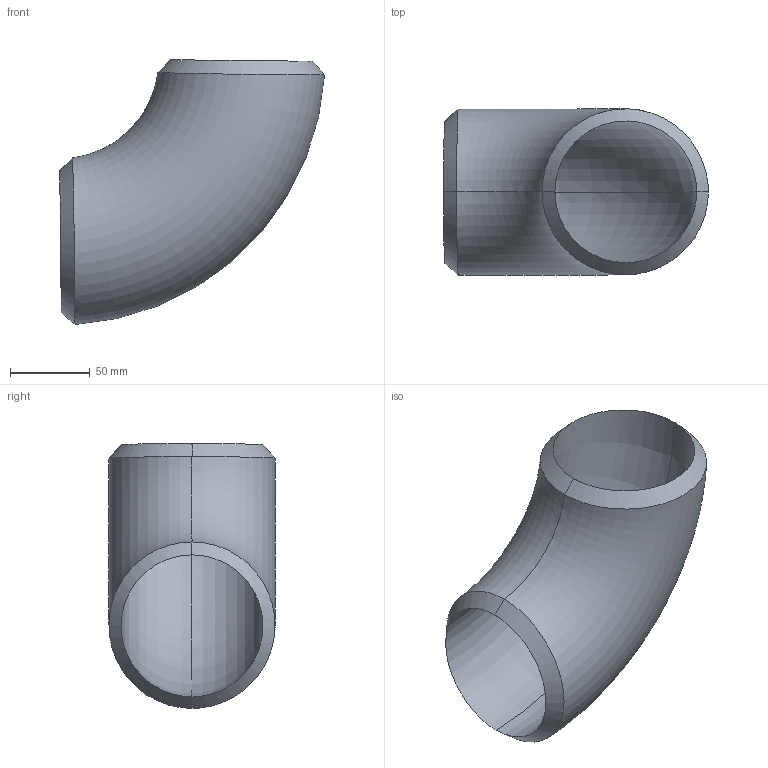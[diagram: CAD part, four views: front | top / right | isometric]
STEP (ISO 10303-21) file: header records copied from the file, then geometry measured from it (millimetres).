
FILE_DESCRIPTION (( 'STEP AP203' ), '1' );
FILE_NAME ('3D_R2651_3X80S_173421182_173425182.STEP', '2024-08-22T09:04:44', ( '' ), ( '' ), 'SwSTEP 2.0', 'SolidWorks 2024', '' );
FILE_SCHEMA (( 'CONFIG_CONTROL_DESIGN' ));
Length unit declared in the file: millimetre
Products named in the file (1): 3D_R2651_3X80S_173421182_173425182
Bounding box: 166.09 x 104.14 x 166.09 mm (x, y, z)
Volume: 387249.8 mm3; surface area: 109321 mm2
Topology: 1 solids, 1 shells, 10 faces, 26 edges, 16 vertices
Faces by surface type: bspline 4, torus 4, plane 2
Entity records: 3275 total; most frequent: CARTESIAN_POINT 2989, ORIENTED_EDGE 52, DIRECTION 30, EDGE_CURVE 26, B_SPLINE_CURVE_WITH_KNOTS 18, VERTEX_POINT 16, AXIS2_PLACEMENT_3D 15, EDGE_LOOP 10
